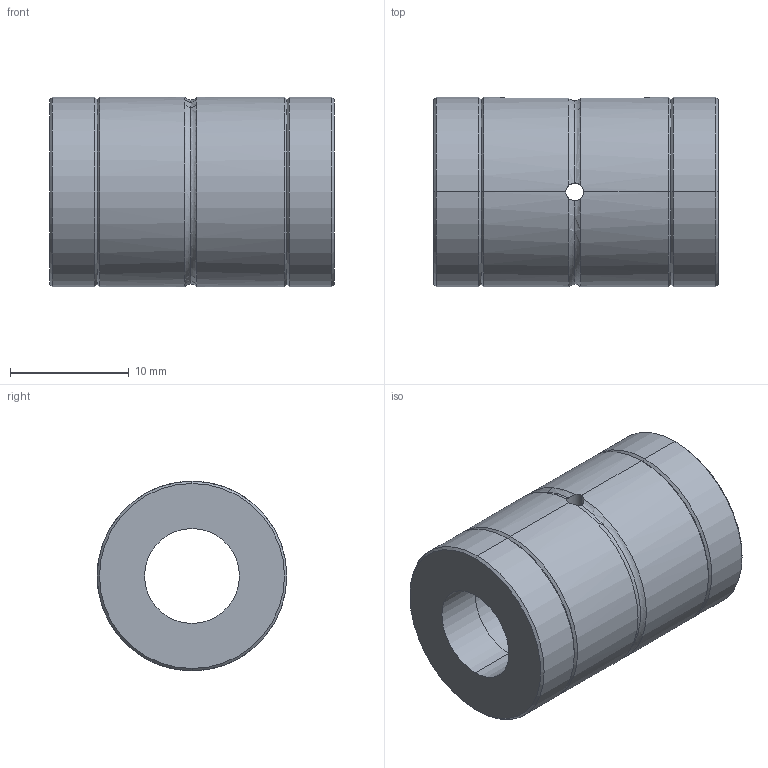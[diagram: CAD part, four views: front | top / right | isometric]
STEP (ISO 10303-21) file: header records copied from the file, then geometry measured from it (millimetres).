
FILE_DESCRIPTION (( 'STEP AP203' ), '1' );
FILE_NAME ('KLT008T2.STEP', '2023-08-11T07:26:03', ( 'Microsoft' ), ( 'Microsoft' ), 'SwSTEP 2.0', 'SolidWorks 2022', '' );
FILE_SCHEMA (( 'CONFIG_CONTROL_DESIGN' ));
Length unit declared in the file: millimetre
Products named in the file (4): 零件7^KLT008T2; 零件6^KLT008T2; KLT008T2; 零件4^KLT008T2
Assembly tree (3 placements, depth 2):
  KLT008T2
    零件4^KLT008T2
    零件6^KLT008T2
    零件7^KLT008T2
Bounding box: 24 x 16 x 16 mm (x, y, z)
Volume: 3556.2 mm3; surface area: 2744.7 mm2
Topology: 3 solids, 3 shells, 47 faces, 115 edges, 70 vertices
Faces by surface type: cylinder 20, cone 12, plane 9, torus 6
Entity records: 1944 total; most frequent: CARTESIAN_POINT 424, DIRECTION 242, ORIENTED_EDGE 230, EDGE_CURVE 115, AXIS2_PLACEMENT_3D 100, VERTEX_POINT 70, EDGE_LOOP 53, FACE_OUTER_BOUND 47
